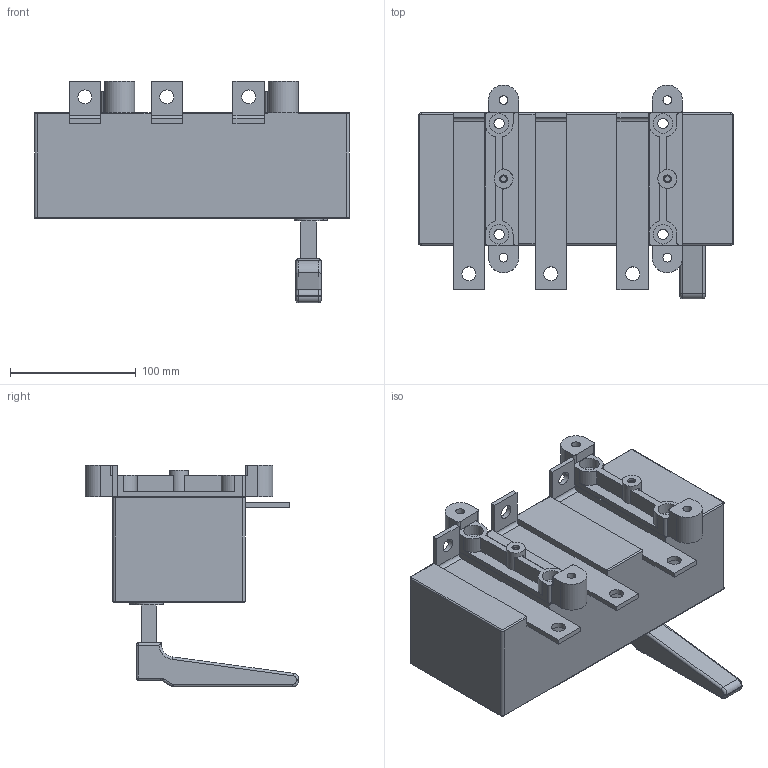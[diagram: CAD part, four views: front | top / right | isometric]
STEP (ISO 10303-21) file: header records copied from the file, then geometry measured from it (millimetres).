
FILE_DESCRIPTION(/* description */ (''),/* implementation_level */ '2;1');
FILE_NAME(/* name */ 'RA400 P3 B-R.stp',/* time_stamp */ '2021-08-18T14:21:26+02:00',/* author */ (''),/* organization */ (''),/* preprocessor_version */ 'ST-DEVELOPER v18.1',/* originating_system */ 'SIEMENS PLM Software NX 1965',/* authorisation */ '');
FILE_SCHEMA (('AUTOMOTIVE_DESIGN { 1 0 10303 214 3 1 1 1 }'));
Length unit declared in the file: millimetre
Products named in the file (1): RA400 P3 B-R_stp
Bounding box: 250 x 169.5 x 176 mm (x, y, z)
Volume: 2299150.4 mm3; surface area: 170764.1 mm2
Topology: 1 solids, 1 shells, 264 faces, 675 edges, 422 vertices
Faces by surface type: plane 129, cylinder 113, torus 11, sphere 6, bspline 5
Full cylindrical faces by diameter (mm): 4.8 x2, 6.2 x2, 7 x4, 8.2 x4, 11 x6, 14 x4, 15 x2, 15.5 x4
Entity records: 7912 total; most frequent: CARTESIAN_POINT 1427, DIRECTION 1405, ORIENTED_EDGE 1274, EDGE_CURVE 637, AXIS2_PLACEMENT_3D 512, VERTEX_POINT 418, LINE 381, VECTOR 381
